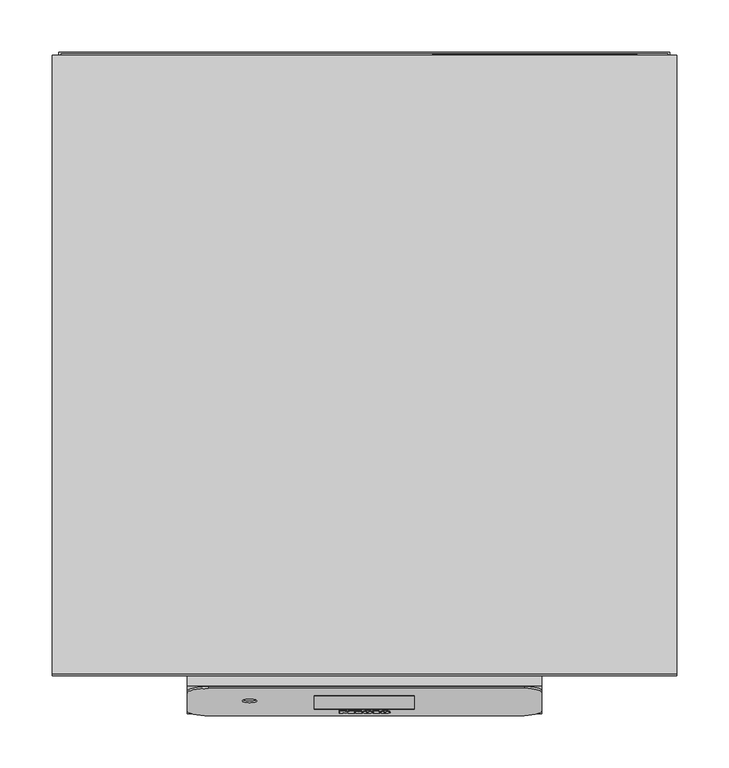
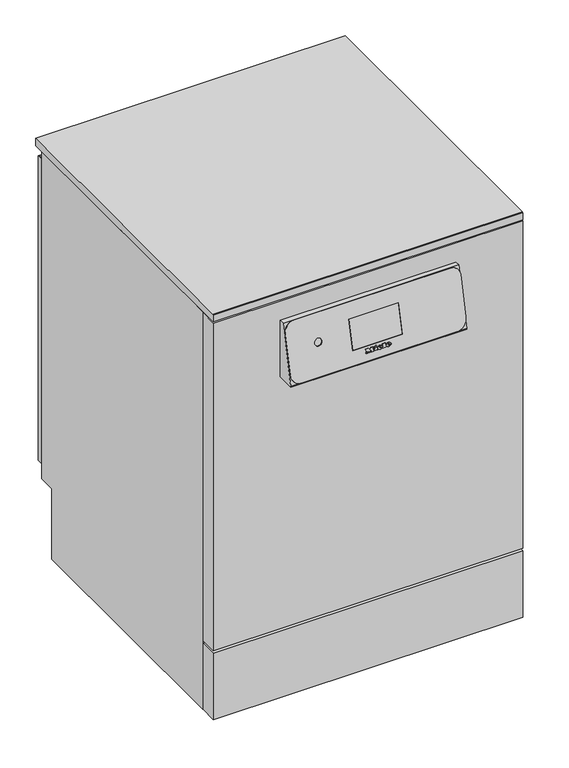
"""IFC4 building model written with IfcOpenShell, lengths in millimetres: proxy geometry, 12065730_NWE_PFD404DOS_SST : 61040487_NWE_12065730_PFD404DOS_SST."""

from ifc_helpers import new_model, si_unit, point, frame, frame_2d, origin, origin_with_axes, place, context, project, spatial, polyline, circle_curve, ellipse_curve, trimmed, segment, composite_curve, outline, extrude, faceted_brep, source, transform, mapped, element, save
from ifc_brep_helpers import plane_surface, cylinder_surface, revolved_surface, extruded_surface, advanced_brep


def specialty_equipment_d3c75e1b(model_context):
    return source(origin(), model_context, "Body", "SolidModel", [
        advanced_brep(
        [(19.2098411, -35.3170778, 679.7116041), (19.2098411, -35.1353173, 680.4988951), (24.5618411, -35.1353173, 680.4988951), (15.2498411, -35.1353173, 680.4988951), (17.4498411, -35.743585, 677.8641985), (24.4258411, -35.3170778, 679.7116041), (22.0098411, -35.3170778, 679.7116041), (20.1058411, -35.5186339, 678.8385685), (19.2098411, -34.9049675, 681.4966501), (19.2098411, -34.7088101, 682.3463008), (20.5778411, -34.7088101, 682.3463008), (20.5778411, -34.9049675, 681.4966501), (19.2098411, -34.3427077, 679.4866531), (20.1058411, -34.5442639, 678.6136175), (22.0098411, -34.3427077, 679.4866531), (24.4258411, -34.3427077, 679.4866531), (17.4498411, -34.7692149, 677.6392474), (15.2498411, -34.1609473, 680.2739441), (24.5618411, -34.1609473, 680.2739441), (19.2098411, -34.1609473, 680.2739441), (19.2098411, -33.9305974, 681.271699), (20.5778411, -33.9305974, 681.271699), (20.5778411, -33.7344401, 682.1213497), (19.2098411, -33.7344401, 682.1213497)],
        [
            (0, 1),
            (1, 2),
            (2, 3, ellipse_curve(frame((19.9058411, -35.1353173, 680.4988951), z_axis=(0.0, -0.9743700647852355, 0.22495105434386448), x_axis=(-1.0, 0.0, 0.0)), 4.656, 3.848)),
            (3, 4, circle_curve(frame((18.3458847, -35.0741307, 680.7639238), z_axis=(0.0, -0.9743700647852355, 0.22495105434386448), x_axis=(0.0, -0.22495105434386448, -0.9743700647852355)), 3.1079688)),
            (4, 5, circle_curve(frame((19.8126347, -34.599034, 682.8217934), z_axis=(0.0, -0.9743700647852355, 0.22495105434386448), x_axis=(0.0, -0.22495105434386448, -0.9743700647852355)), 5.6098607)),
            (5, 6),
            (6, 7, circle_curve(frame((20.4968999, -35.1497142, 680.4365354), z_axis=(0.0, 0.9743700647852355, -0.22495105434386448), x_axis=(0.0, -0.22495105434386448, -0.9743700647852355)), 1.6859795)),
            (7, 0, circle_curve(frame((20.1058411, -35.3170778, 679.7116041), z_axis=(0.0, 0.9743700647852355, -0.22495105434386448), x_axis=(0.0, -0.22495105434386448, -0.9743700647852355)), 0.896)),
            (8, 9),
            (9, 10, circle_curve(frame((19.8938411, -34.7088101, 682.3463008), z_axis=(0.0, 0.9743700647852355, -0.22495105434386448), x_axis=(0.0, -0.22495105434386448, -0.9743700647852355)), 0.684)),
            (10, 11),
            (11, 8),
            (12, 13, circle_curve(frame((20.1058411, -34.3427077, 679.4866531), z_axis=(0.0, -0.9743700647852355, 0.22495105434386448), x_axis=(0.0, -0.22495105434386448, -0.9743700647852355)), 0.896)),
            (13, 14, circle_curve(frame((20.4968999, -34.1753441, 680.2115844), z_axis=(0.0, -0.9743700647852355, 0.22495105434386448), x_axis=(0.0, -0.22495105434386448, -0.9743700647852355)), 1.6859795)),
            (14, 15),
            (15, 16, circle_curve(frame((19.8126347, -33.624664, 682.5968423), z_axis=(0.0, 0.9743700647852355, -0.22495105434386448), x_axis=(0.0, -0.22495105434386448, -0.9743700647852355)), 5.6098607)),
            (16, 17, circle_curve(frame((18.3458847, -34.0997606, 680.5389727), z_axis=(0.0, 0.9743700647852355, -0.22495105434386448), x_axis=(0.0, -0.22495105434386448, -0.9743700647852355)), 3.1079688)),
            (17, 18, ellipse_curve(frame((19.9058411, -34.1609473, 680.2739441), z_axis=(0.0, 0.9743700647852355, -0.22495105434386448), x_axis=(-1.0, 0.0, 0.0)), 4.656, 3.848)),
            (18, 19),
            (19, 12),
            (20, 21),
            (21, 22),
            (22, 23, circle_curve(frame((19.8938411, -33.7344401, 682.1213497), z_axis=(0.0, -0.9743700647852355, 0.22495105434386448), x_axis=(0.0, -0.22495105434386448, -0.9743700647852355)), 0.684)),
            (23, 20),
            (0, 12),
            (19, 1),
            (18, 2),
            (5, 15),
            (14, 6),
            (17, 3),
            (13, 7),
            (16, 4),
            (8, 20),
            (23, 9),
            (22, 10),
            (21, 11),
        ],
        [
            plane_surface(frame((19.2098411, -35.1353173, 680.4988951), z_axis=(0.0, -0.9743700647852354, 0.22495105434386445), x_axis=(0.0, 0.22495105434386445, 0.9743700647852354))),
            plane_surface(frame((19.2098411, -34.1609473, 680.2739441), z_axis=(0.0, 0.9743700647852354, -0.22495105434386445), x_axis=(0.0, -0.22495105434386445, -0.9743700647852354))),
            plane_surface(frame((19.2098411, -35.3170778, 679.7116041), z_axis=(1.0, 0.0, 0.0), x_axis=(0.0, 0.9743700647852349, -0.22495105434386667))),
            plane_surface(frame((19.2098411, -35.1353173, 680.4988951), z_axis=(0.0, -0.22495105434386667, -0.9743700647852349), x_axis=(0.0, 0.9743700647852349, -0.22495105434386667))),
            plane_surface(frame((24.4258411, -35.3170778, 679.7116041), z_axis=(0.0, 0.22495105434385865, 0.9743700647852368), x_axis=(0.0, 0.9743700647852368, -0.22495105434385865))),
            extruded_surface(trimmed(ellipse_curve(frame((19.9058411, -33.1865772, 680.048993), z_axis=(0.0, -0.9743700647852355, 0.22495105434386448), x_axis=(-1.0, 0.0, 0.0)), 4.656, 3.848), [point((24.5618411, -33.1865772, 680.048993))], [point((15.2498411, -33.1865772, 680.048993))], True, "CARTESIAN"), (0.0, -0.9743700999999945, 0.2249510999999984), 1.0000000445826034),
            revolved_surface(polyline([(20.4968999, -34.55460696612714, 678.5688164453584), (20.4968999, -35.52897707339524, 678.7937675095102)]), (20.4968999, -34.1753441, 680.2115844), (0.0, 0.9743700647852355, -0.22495105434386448)),
            revolved_surface(polyline([(20.1058411, -34.544263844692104, 678.6136175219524), (20.1058411, -35.51863393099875, 678.8385685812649)]), (20.1058411, -34.3427077, 679.4866531), (0.0, 0.9743700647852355, -0.22495105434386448)),
            cylinder_surface(frame((18.3458847, -34.0997606, 680.5389727), z_axis=(0.0, -0.9743700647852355, 0.22495105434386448), x_axis=(0.0, -0.22495105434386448, -0.9743700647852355)), 3.1079688),
            cylinder_surface(frame((19.8126347, -33.624664, 682.5968423), z_axis=(0.0, -0.9743700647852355, 0.22495105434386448), x_axis=(0.0, -0.22495105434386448, -0.9743700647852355)), 5.6098607),
            plane_surface(frame((19.2098411, -34.9049675, 681.4966501), z_axis=(1.0, 0.0, 0.0), x_axis=(0.0, 0.9743700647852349, -0.22495105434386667))),
            revolved_surface(polyline([(19.8938411, -33.8883066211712, 681.4548805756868), (19.8938411, -34.8626766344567, 681.6798316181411)]), (19.8938411, -33.7344401, 682.1213497), (0.0, 0.9743700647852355, -0.22495105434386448)),
            plane_surface(frame((20.5778411, -34.7088101, 682.3463008), z_axis=(-1.0, 0.0, 0.0), x_axis=(0.0, 0.9743700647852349, -0.22495105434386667))),
            plane_surface(frame((20.5778411, -34.9049675, 681.4966501), z_axis=(0.0, 0.22495105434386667, 0.9743700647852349), x_axis=(0.0, 0.9743700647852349, -0.22495105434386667))),
        ],
        [
            (0, [[1, 2, 3, 4, 5, 6, 7, 8], [9, 10, 11, 12]]),
            (1, [[13, 14, 15, 16, 17, 18, 19, 20], [21, 22, 23, 24]]),
            (2, [[-1, 25, -20, 26]]),
            (3, [[-2, -26, -19, 27]]),
            (4, [[-6, 28, -15, 29]]),
            (5, [[-3, -27, -18, 30]]),
            (6, [[-7, -29, -14, 31]]),
            (7, [[-8, -31, -13, -25]]),
            (8, [[-4, -30, -17, 32]]),
            (9, [[-5, -32, -16, -28]]),
            (10, [[-9, 33, -24, 34]]),
            (11, [[-10, -34, -23, 35]]),
            (12, [[-11, -35, -22, 36]]),
            (13, [[-12, -36, -21, -33]]),
        ],
    ),
        advanced_brep(
        [(2.5138411, -35.3170778, 679.7116041), (2.5138411, -35.1353173, 680.4988951), (7.8658411, -35.1353173, 680.4988951), (-1.4461589, -35.1353173, 680.4988951), (0.7538411, -35.743585, 677.8641985), (7.7298411, -35.3170778, 679.7116041), (5.3138411, -35.3170778, 679.7116041), (3.4098411, -35.5186339, 678.8385685), (2.5138411, -34.9049675, 681.4966501), (2.5138411, -34.7088101, 682.3463008), (3.8818411, -34.7088101, 682.3463008), (3.8818411, -34.9049675, 681.4966501), (2.5138411, -34.3427077, 679.4866531), (3.4098411, -34.5442639, 678.6136175), (5.3138411, -34.3427077, 679.4866531), (7.7298411, -34.3427077, 679.4866531), (0.7538411, -34.7692149, 677.6392474), (-1.4461589, -34.1609473, 680.2739441), (7.8658411, -34.1609473, 680.2739441), (2.5138411, -34.1609473, 680.2739441), (2.5138411, -33.9305974, 681.271699), (3.8818411, -33.9305974, 681.271699), (3.8818411, -33.7344401, 682.1213497), (2.5138411, -33.7344401, 682.1213497)],
        [
            (0, 1),
            (1, 2),
            (2, 3, ellipse_curve(frame((3.2098411, -35.1353173, 680.4988951), z_axis=(0.0, -0.9743700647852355, 0.22495105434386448), x_axis=(-1.0, 0.0, 0.0)), 4.656, 3.848)),
            (3, 4, circle_curve(frame((1.6498847, -35.0741307, 680.7639238), z_axis=(0.0, -0.9743700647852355, 0.22495105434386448), x_axis=(0.0, -0.22495105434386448, -0.9743700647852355)), 3.1079688)),
            (4, 5, circle_curve(frame((3.1166347, -34.599034, 682.8217934), z_axis=(0.0, -0.9743700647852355, 0.22495105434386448), x_axis=(0.0, -0.22495105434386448, -0.9743700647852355)), 5.6098607)),
            (5, 6),
            (6, 7, circle_curve(frame((3.8008999, -35.1497142, 680.4365354), z_axis=(0.0, 0.9743700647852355, -0.22495105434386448), x_axis=(0.0, -0.22495105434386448, -0.9743700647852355)), 1.6859795)),
            (7, 0, circle_curve(frame((3.4098411, -35.3170778, 679.7116041), z_axis=(0.0, 0.9743700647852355, -0.22495105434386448), x_axis=(0.0, -0.22495105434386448, -0.9743700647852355)), 0.896)),
            (8, 9),
            (9, 10, circle_curve(frame((3.1978411, -34.7088101, 682.3463008), z_axis=(0.0, 0.9743700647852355, -0.22495105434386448), x_axis=(0.0, -0.22495105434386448, -0.9743700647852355)), 0.684)),
            (10, 11),
            (11, 8),
            (12, 13, circle_curve(frame((3.4098411, -34.3427077, 679.4866531), z_axis=(0.0, -0.9743700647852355, 0.22495105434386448), x_axis=(0.0, -0.22495105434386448, -0.9743700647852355)), 0.896)),
            (13, 14, circle_curve(frame((3.8008999, -34.1753441, 680.2115844), z_axis=(0.0, -0.9743700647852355, 0.22495105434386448), x_axis=(0.0, -0.22495105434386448, -0.9743700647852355)), 1.6859795)),
            (14, 15),
            (15, 16, circle_curve(frame((3.1166347, -33.624664, 682.5968423), z_axis=(0.0, 0.9743700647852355, -0.22495105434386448), x_axis=(0.0, -0.22495105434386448, -0.9743700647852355)), 5.6098607)),
            (16, 17, circle_curve(frame((1.6498847, -34.0997606, 680.5389727), z_axis=(0.0, 0.9743700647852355, -0.22495105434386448), x_axis=(0.0, -0.22495105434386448, -0.9743700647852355)), 3.1079688)),
            (17, 18, ellipse_curve(frame((3.2098411, -34.1609473, 680.2739441), z_axis=(0.0, 0.9743700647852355, -0.22495105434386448), x_axis=(-1.0, 0.0, 0.0)), 4.656, 3.848)),
            (18, 19),
            (19, 12),
            (20, 21),
            (21, 22),
            (22, 23, circle_curve(frame((3.1978411, -33.7344401, 682.1213497), z_axis=(0.0, -0.9743700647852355, 0.22495105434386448), x_axis=(0.0, -0.22495105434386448, -0.9743700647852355)), 0.684)),
            (23, 20),
            (0, 12),
            (19, 1),
            (18, 2),
            (5, 15),
            (14, 6),
            (17, 3),
            (13, 7),
            (16, 4),
            (8, 20),
            (23, 9),
            (22, 10),
            (21, 11),
        ],
        [
            plane_surface(frame((2.5138411, -35.1353173, 680.4988951), z_axis=(0.0, -0.9743700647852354, 0.22495105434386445), x_axis=(0.0, 0.22495105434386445, 0.9743700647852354))),
            plane_surface(frame((2.5138411, -34.1609473, 680.2739441), z_axis=(0.0, 0.9743700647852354, -0.22495105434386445), x_axis=(0.0, -0.22495105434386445, -0.9743700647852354))),
            plane_surface(frame((2.5138411, -35.3170778, 679.7116041), z_axis=(1.0000000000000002, 0.0, 0.0), x_axis=(0.0, 0.9743700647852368, -0.22495105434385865))),
            plane_surface(frame((2.5138411, -35.1353173, 680.4988951), z_axis=(0.0, -0.22495105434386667, -0.9743700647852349), x_axis=(0.0, 0.9743700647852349, -0.22495105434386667))),
            plane_surface(frame((7.7298411, -35.3170778, 679.7116041), z_axis=(0.0, 0.22495105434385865, 0.9743700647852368), x_axis=(0.0, 0.9743700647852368, -0.22495105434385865))),
            extruded_surface(trimmed(ellipse_curve(frame((3.2098411, -33.1865772, 680.048993), z_axis=(0.0, -0.9743700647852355, 0.22495105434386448), x_axis=(-1.0, 0.0, 0.0)), 4.656, 3.848), [point((7.8658411, -33.1865772, 680.048993))], [point((-1.4461589, -33.1865772, 680.048993))], True, "CARTESIAN"), (0.0, -0.9743700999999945, 0.2249510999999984), 1.0000000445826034),
            revolved_surface(polyline([(3.8008999, -34.55460696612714, 678.5688164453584), (3.8008999, -35.52897707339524, 678.7937675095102)]), (3.8008999, -34.1753441, 680.2115844), (0.0, 0.9743700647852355, -0.22495105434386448)),
            revolved_surface(polyline([(3.4098411, -34.544263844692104, 678.6136175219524), (3.4098411, -35.51863393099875, 678.8385685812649)]), (3.4098411, -34.3427077, 679.4866531), (0.0, 0.9743700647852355, -0.22495105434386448)),
            cylinder_surface(frame((1.6498847, -34.0997606, 680.5389727), z_axis=(0.0, -0.9743700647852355, 0.22495105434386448), x_axis=(0.0, -0.22495105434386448, -0.9743700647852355)), 3.1079688),
            cylinder_surface(frame((3.1166347, -33.624664, 682.5968423), z_axis=(0.0, -0.9743700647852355, 0.22495105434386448), x_axis=(0.0, -0.22495105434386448, -0.9743700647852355)), 5.6098607),
            plane_surface(frame((2.5138411, -34.9049675, 681.4966501), z_axis=(1.0, 0.0, 0.0), x_axis=(0.0, 0.9743700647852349, -0.22495105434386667))),
            revolved_surface(polyline([(3.1978411, -33.8883066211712, 681.4548805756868), (3.1978411, -34.8626766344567, 681.6798316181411)]), (3.1978411, -33.7344401, 682.1213497), (0.0, 0.9743700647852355, -0.22495105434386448)),
            plane_surface(frame((3.8818411, -34.7088101, 682.3463008), z_axis=(-1.0, 0.0, 0.0), x_axis=(0.0, 0.9743700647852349, -0.22495105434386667))),
            plane_surface(frame((3.8818411, -34.9049675, 681.4966501), z_axis=(0.0, 0.22495105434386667, 0.9743700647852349), x_axis=(0.0, 0.9743700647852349, -0.22495105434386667))),
        ],
        [
            (0, [[1, 2, 3, 4, 5, 6, 7, 8], [9, 10, 11, 12]]),
            (1, [[13, 14, 15, 16, 17, 18, 19, 20], [21, 22, 23, 24]]),
            (2, [[-1, 25, -20, 26]]),
            (3, [[-2, -26, -19, 27]]),
            (4, [[-6, 28, -15, 29]]),
            (5, [[-3, -27, -18, 30]]),
            (6, [[-7, -29, -14, 31]]),
            (7, [[-8, -31, -13, -25]]),
            (8, [[-4, -30, -17, 32]]),
            (9, [[-5, -32, -16, -28]]),
            (10, [[-9, 33, -24, 34]]),
            (11, [[-10, -34, -23, 35]]),
            (12, [[-11, -35, -22, 36]]),
            (13, [[-12, -36, -21, -33]]),
        ],
    ),
        extrude(outline(polyline([(0.0, 0.0), (-0.0109087, -2.9993294), (-1.4390415, -2.9920868), (-1.4315307, 0.0), (0.0, 0.0)])), frame((-6.2301589, -33.0757834, 684.9743053), z_axis=(0.0, -0.9743700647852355, 0.2249510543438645), x_axis=(-0.42472021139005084, 0.20365373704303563, 0.8821212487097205)), (0.0, 0.0, 1.0), 1.0),
        extrude(outline(polyline([(-0.4933908, 2.4141097), (-2.7800844, -2.4601583), (-7.0459742, -0.4588767), (-7.4401146, -1.2990179), (-8.6568709, -0.728194), (-5.9760369, 4.9862153), (-4.7592806, 4.4153913), (-5.1636142, 3.5535222), (-2.1941493, 2.16044), (-1.7898157, 3.022309), (-0.4933908, 2.4141097)])), frame((-6.2301589, -33.0757834, 684.9743053), z_axis=(0.0, -0.9743700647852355, 0.2249510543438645), x_axis=(-0.42472021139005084, 0.20365373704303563, 0.8821212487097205)), (0.0, 0.0, 1.0), 1.0),
        extrude(outline(polyline([(0.0, 0.0), (0.0, -1.3039999), (-5.504, -1.3039999), (-5.504, 5.352), (-6.488, 5.352), (-6.488, 6.696), (0.0, 6.696), (0.0, 5.352), (-0.96, 5.352), (-0.96, 0.0), (0.0, 0.0)])), frame((8.3138411, -33.2629427, 684.1636294), z_axis=(0.0, -0.9743700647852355, 0.22495105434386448), x_axis=(-1.0, 0.0, 0.0)), (0.0, 0.0, 1.0), 1.0),
        extrude(outline(polyline([(0.0, 0.0), (0.0, -1.3039999), (-5.576, -1.3039999), (-7.92, 1.6960001), (-10.256, -1.3039999), (-15.128, -1.3039999), (-15.128, 0.0), (-14.112, 0.0), (-14.112, 5.352), (-15.128, 5.352), (-15.128, 6.696), (-8.744, 6.696), (-8.744, 5.352), (-9.728, 5.352), (-9.728, 1.8807777), (-6.136, 6.696), (-2.56, 1.9488752), (-2.56, 5.352), (-3.52, 5.352), (-3.52, 6.696), (0.0, 6.696), (0.0, 5.352), (-0.968, 5.352), (-0.968, 0.0), (0.0, 0.0)])), frame((-24.1501589, -33.2629427, 684.1636294), z_axis=(0.0, -0.9743700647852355, 0.22495105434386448), x_axis=(-1.0, 0.0, 0.0)), (0.0, 0.0, 1.0), 1.0),
        extrude(outline(polyline([(1.7745866, 832.3), (594.2, 832.3), (594.2, 817.0), (0.2, 817.0), (0.2, 830.7254134), (1.7745866, 832.3)])), frame((-299.0, 0.0, 0.0), z_axis=(1.0, 0.0, 0.0), x_axis=(0.0, 1.0, 0.0)), (0.0, 0.0, 1.0), 598.0),
        extrude(outline(polyline([(-0.1038681, 775.5857792), (-0.1038681, 660.0), (-36.1981904, 660.0), (-36.1981904, 662.5588517), (-10.1038681, 775.5857792), (-0.1038681, 775.5857792)])), frame((-169.8831565, 0.0, 0.0), z_axis=(1.0, 0.0, 0.0), x_axis=(0.0, 1.0, 0.0)), (0.0, 0.0, 1.0), 339.766313),
        extrude(outline(polyline([(299.0, 34.0), (299.0, 0.0), (-299.0, 0.0), (-299.0, 34.0), (299.0, 34.0)])), frame((0.0, 0.0, 4.5), z_axis=(0.0, 0.0, 1.0), x_axis=(1.0, 0.0, 0.0)), (0.0, 0.0, 1.0), 135.5),
        extrude(outline(polyline([(299.0, 34.0), (299.0, 0.0), (-299.0, 0.0), (-299.0, 34.0), (299.0, 34.0)])), frame((0.0, 0.0, 145.0), z_axis=(0.0, 0.0, 1.0), x_axis=(1.0, 0.0, 0.0)), (0.0, 0.0, 1.0), 670.0),
        advanced_brep(
        [(153.3281651, -12.0526082, 776.0356813), (-148.8831565, -12.0526082, 776.0356813), (-169.8831565, -16.7765804, 755.57391), (-169.8831565, -33.4229584, 683.4705252), (-148.8831565, -38.1469305, 663.0087538), (148.8831565, -38.1469305, 663.0087538), (169.8831565, -33.4229584, 683.4705252), (169.8831565, -15.776671, 759.9049933), (-102.8831565, -24.0088923, 724.2473253), (-116.8831565, -24.0088923, 724.2473253), (48.0, -18.9868916, 746.0), (48.0, -31.9155103, 690.0), (-48.0, -31.9155103, 690.0), (-48.0, -18.9868916, 746.0), (153.3281651, -10.1038681, 775.5857792), (169.8831565, -13.8279308, 759.4550912), (169.8831565, -31.4742182, 683.0206231), (148.8831565, -36.1981904, 662.5588517), (-148.8831565, -36.1981904, 662.5588517), (-169.8831565, -31.4742182, 683.0206231), (-169.8831565, -14.8278402, 755.1240079), (-148.8831565, -10.1038681, 775.5857792), (48.0, -29.8629021, 690.0), (48.0, -16.9342834, 746.0), (-48.0, -16.9342834, 746.0), (-48.0, -29.8629021, 690.0), (-116.8831565, -22.4281396, 723.8823798), (-102.8831565, -22.4281396, 723.8823798)],
        [
            (0, 1),
            (1, 2, circle_curve(frame((-148.8831565, -16.7765804, 755.57391), z_axis=(0.0, -0.9743700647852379, 0.22495105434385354), x_axis=(1.0, 0.0, 0.0)), 21.0)),
            (2, 3),
            (3, 4, circle_curve(frame((-148.8831565, -33.4229584, 683.4705252), z_axis=(0.0, -0.9743700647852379, 0.22495105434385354), x_axis=(1.0, 0.0, 0.0)), 21.0)),
            (4, 5),
            (5, 6, circle_curve(frame((148.8831565, -33.4229584, 683.4705252), z_axis=(0.0, -0.9743700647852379, 0.22495105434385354), x_axis=(1.0, 0.0, 0.0)), 21.0)),
            (6, 7),
            (7, 0, circle_curve(frame((153.3281651, -15.776671, 759.9049933), z_axis=(0.0, -0.9743700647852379, 0.22495105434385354), x_axis=(1.0, 0.0, 0.0)), 16.5549913)),
            (8, 9, circle_curve(frame((-109.8831565, -24.0088923, 724.2473253), z_axis=(0.0, 0.9743700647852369, -0.22495105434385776), x_axis=(1.0, 0.0, 0.0)), 7.0)),
            (9, 8, circle_curve(frame((-109.8831565, -24.0088923, 724.2473253), z_axis=(0.0, 0.9743700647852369, -0.22495105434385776), x_axis=(1.0, 0.0, 0.0)), 7.0)),
            (10, 11),
            (11, 12),
            (12, 13),
            (13, 10),
            (14, 15, circle_curve(frame((153.3281651, -13.8279308, 759.4550912), z_axis=(0.0, 0.9743700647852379, -0.22495105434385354), x_axis=(1.0, 0.0, 0.0)), 16.5549913)),
            (15, 16),
            (16, 17, circle_curve(frame((148.8831565, -31.4742182, 683.0206231), z_axis=(0.0, 0.9743700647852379, -0.22495105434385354), x_axis=(1.0, 0.0, 0.0)), 21.0)),
            (17, 18),
            (18, 19, circle_curve(frame((-148.8831565, -31.4742182, 683.0206231), z_axis=(0.0, 0.9743700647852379, -0.22495105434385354), x_axis=(1.0, 0.0, 0.0)), 21.0)),
            (19, 20),
            (20, 21, circle_curve(frame((-148.8831565, -14.8278402, 755.1240079), z_axis=(0.0, 0.9743700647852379, -0.22495105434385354), x_axis=(1.0, 0.0, 0.0)), 21.0)),
            (21, 14),
            (22, 23),
            (23, 24),
            (24, 25),
            (25, 22),
            (0, 14),
            (21, 1),
            (20, 2),
            (19, 3),
            (18, 4),
            (17, 5),
            (16, 6),
            (15, 7),
            (26, 27, circle_curve(frame((-109.8831565, -22.4281396, 723.8823798), z_axis=(0.0, -0.9743700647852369, 0.22495105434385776), x_axis=(1.0, 0.0, 0.0)), 7.0)),
            (27, 26, circle_curve(frame((-109.8831565, -22.4281396, 723.8823798), z_axis=(0.0, -0.9743700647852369, 0.22495105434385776), x_axis=(1.0, 0.0, 0.0)), 7.0)),
            (26, 9),
            (8, 27),
            (12, 25),
            (24, 13),
            (10, 23),
            (22, 11),
        ],
        [
            plane_surface(frame((-166.8819453, -12.0526082, 776.0356813), z_axis=(0.0, -0.9743700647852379, 0.22495105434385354), x_axis=(-1.0, 0.0, 0.0))),
            plane_surface(frame((-166.8819453, -10.1038681, 775.5857792), z_axis=(0.0, 0.9743700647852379, -0.22495105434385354), x_axis=(1.0, 0.0, 0.0))),
            plane_surface(frame((153.3281651, -12.0526082, 776.0356813), z_axis=(0.0, 0.22495105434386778, 0.9743700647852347), x_axis=(0.0, 0.9743700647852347, -0.22495105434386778))),
            cylinder_surface(frame((-148.8831565, -14.8278402, 755.1240079), z_axis=(0.0, -0.9743700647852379, 0.22495105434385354), x_axis=(1.0, 0.0, 0.0)), 21.0),
            plane_surface(frame((-169.8831565, -16.7765804, 755.57391), z_axis=(-1.0, 0.0, 0.0), x_axis=(0.0, 0.9743700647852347, -0.22495105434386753))),
            cylinder_surface(frame((-148.8831565, -31.4742182, 683.0206231), z_axis=(0.0, -0.9743700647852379, 0.22495105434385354), x_axis=(1.0, 0.0, 0.0)), 21.0),
            plane_surface(frame((-148.8831565, -38.1469305, 663.0087538), z_axis=(0.0, -0.22495105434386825, -0.9743700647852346), x_axis=(0.0, 0.9743700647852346, -0.22495105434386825))),
            cylinder_surface(frame((148.8831565, -31.4742182, 683.0206231), z_axis=(0.0, -0.9743700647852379, 0.22495105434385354), x_axis=(1.0, 0.0, 0.0)), 21.0),
            plane_surface(frame((169.8831565, -33.4229584, 683.4705252), z_axis=(1.0000000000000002, 0.0, 0.0), x_axis=(0.0, 0.9743700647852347, -0.22495105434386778))),
            cylinder_surface(frame((153.3281651, -13.8279308, 759.4550912), z_axis=(0.0, -0.9743700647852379, 0.22495105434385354), x_axis=(1.0, 0.0, 0.0)), 16.5549913),
            plane_surface(frame((-102.8831565, -22.4281396, 723.8823798), z_axis=(0.0, -0.9743700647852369, 0.2249510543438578), x_axis=(0.0, -0.2249510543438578, -0.9743700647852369))),
            revolved_surface(polyline([(-102.8831565, -24.008892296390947, 724.2473253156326), (-102.8831565, -22.4281396, 723.8823798)]), (-109.8831565, -22.4281396, 723.8823798), (0.0, -0.9743700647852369, 0.22495105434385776)),
            plane_surface(frame((-48.0, -31.9155103, 690.0), z_axis=(1.0, 0.0, 0.0), x_axis=(0.0, -1.0, 0.0))),
            plane_surface(frame((48.0, -31.9155103, 690.0), z_axis=(-1.0, 0.0, 0.0), x_axis=(0.0, 1.0, 0.0))),
            plane_surface(frame((48.0, -31.9155103, 690.0), z_axis=(0.0, 0.0, 1.0), x_axis=(-1.0, 0.0, 0.0))),
            plane_surface(frame((48.0, -16.9342834, 746.0), z_axis=(0.0, 0.0, -1.0), x_axis=(-1.0, 0.0, 0.0))),
        ],
        [
            (0, [[1, 2, 3, 4, 5, 6, 7, 8], [9, 10], [11, 12, 13, 14]]),
            (1, [[15, 16, 17, 18, 19, 20, 21, 22], [23, 24, 25, 26]]),
            (2, [[-1, 27, -22, 28]]),
            (3, [[-2, -28, -21, 29]]),
            (4, [[-3, -29, -20, 30]]),
            (5, [[-4, -30, -19, 31]]),
            (6, [[-5, -31, -18, 32]]),
            (7, [[-6, -32, -17, 33]]),
            (8, [[-7, -33, -16, 34]]),
            (9, [[-8, -34, -15, -27]]),
            (10, [[35, 36]]),
            (11, [[-35, 37, -9, 38]]),
            (11, [[-36, -38, -10, -37]]),
            (12, [[39, -25, 40, -13]]),
            (13, [[41, -23, 42, -11]]),
            (14, [[-42, -26, -39, -12]]),
            (15, [[-41, -14, -40, -24]]),
        ],
    ),
        extrude(outline(polyline([(-29.8629021, 690.0), (-31.9155103, 690.0), (-18.9868916, 746.0), (-16.9342834, 746.0), (-29.8629021, 690.0)])), frame((-48.0, 0.0, 0.0), z_axis=(1.0, 0.0, 0.0), x_axis=(0.0, 1.0, 0.0)), (0.0, 0.0, 1.0), 96.0),
        extrude(outline(polyline([(35.0, 817.0), (575.0, 817.0), (575.0, 148.0), (541.0, 148.0), (541.0, 4.2000122), (35.0, 4.2000122), (35.0, 817.0)])), frame((-299.0, 0.0, 0.0), z_axis=(1.0, 0.0, 0.0), x_axis=(0.0, 1.0, 0.0)), (0.0, 0.0, 1.0), 598.0),
        extrude(outline(polyline([(-172.0947306, 541.0), (-252.9150967, 541.0), (-252.9150967, 546.8796322), (-172.0947306, 546.8796322), (-172.0947306, 541.0)])), frame((0.0, 0.0, 83.2113443), z_axis=(0.0, 0.0, 1.0), x_axis=(1.0, 0.0, 0.0)), (0.0, 0.0, 1.0), 9.5402229),
        extrude(outline(polyline([(-172.0947306, 541.0), (-252.9150967, 541.0), (-252.9150967, 546.8796322), (-172.0947306, 546.8796322), (-172.0947306, 541.0)])), frame((0.0, 0.0, 49.1113767), z_axis=(0.0, 0.0, 1.0), x_axis=(1.0, 0.0, 0.0)), (0.0, 0.0, 1.0), 11.5700235),
        extrude(outline(polyline([(-172.0947306, 541.0), (-252.9150967, 541.0), (-252.9150967, 546.8796322), (-172.0947306, 546.8796322), (-172.0947306, 541.0)])), frame((0.0, 0.0, 67.2113431), z_axis=(0.0, 0.0, 1.0), x_axis=(1.0, 0.0, 0.0)), (0.0, 0.0, 1.0), 9.5826234),
        faceted_brep([(292.4999939, 597.3069992, 792.0057337), (292.4999939, 575.0, 792.0057337), (292.4999939, 575.0, 170.291519), (292.4999939, 597.3069992, 170.291519), (-292.5000061, 597.3069992, 792.0057337), (-292.5000061, 597.3069992, 170.291519), (-200.000102, 597.3069992, 319.6113699), (-200.000102, 597.3069992, 244.365213), (-125.000102, 597.3069992, 244.365213), (-125.000102, 597.3069992, 319.6113699), (-200.000102, 596.3069992, 244.365213), (-200.000102, 596.3069992, 319.6113699), (-125.000102, 596.3069992, 244.365213), (-125.000102, 596.3069992, 319.6113699), (-292.5000061, 575.0, 792.0057337), (-291.0000061, 575.0, 792.0057337), (-291.0000061, 596.3069992, 792.0057337), (290.9999949, 596.3069992, 792.0057337), (290.9999949, 575.0, 792.0057337), (290.9999949, 575.0, 170.291519), (290.9999949, 596.3069992, 170.291519), (-291.0000061, 596.3069992, 170.291519), (-291.0000061, 575.0, 170.291519), (-292.5000061, 575.0, 170.291519)], [[[0, 1, 2, 3]], [[4, 0, 3, 5], [6, 7, 8, 9]], [[10, 7, 6, 11]], [[7, 10, 12, 8]], [[8, 12, 13, 9]], [[11, 6, 9, 13]], [[0, 4, 14, 15, 16, 17, 18, 1]], [[3, 2, 19, 20, 21, 22, 23, 5]], [[14, 4, 5, 23]], [[15, 14, 23, 22]], [[16, 15, 22, 21]], [[17, 16, 21, 20], [10, 11, 13, 12]], [[18, 17, 20, 19]], [[1, 18, 19, 2]]]),
        extrude(outline(polyline([(48.0999756, 96.1730873), (58.1456066, 98.9125818), (58.1456066, 97.6176372), (51.5433511, 96.028387), (49.5052848, 95.5378777), (51.3079066, 95.0130327), (58.1456066, 93.0215648), (58.1456066, 91.1551768), (53.1890099, 89.7081743), (49.5052848, 88.6315064), (51.4844899, 88.1557123), (58.1456066, 86.5517468), (58.1456066, 85.2568022), (48.0999756, 87.9987493), (48.0999756, 89.3402923), (55.850023, 91.7486931), (56.931596, 92.084692), (55.6292938, 92.4623842), (48.0999756, 94.6574134), (48.0999756, 96.1730873)])), frame((0.0, 571.0, 0.0), z_axis=(0.0, 1.0, 0.0), x_axis=(0.0, 0.0, 1.0)), (0.0, 0.0, 1.0), 1.0),
        extrude(outline(polyline([(48.0999756, 82.2033816), (58.1456066, 84.9428762), (58.1456066, 83.6479316), (51.5433511, 82.0586814), (49.5052848, 81.568172), (51.3079066, 81.0433271), (58.1456066, 79.0518592), (58.1456066, 77.1854712), (53.1890099, 75.7384687), (49.5052848, 74.6618007), (51.4844899, 74.1860067), (58.1456066, 72.5820412), (58.1456066, 71.2870966), (48.0999756, 74.0290437), (48.0999756, 75.3705867), (55.850023, 77.7789875), (56.931596, 78.1149864), (55.6292938, 78.4926786), (48.0999756, 80.6877078), (48.0999756, 82.2033816)])), frame((0.0, 571.0, 0.0), z_axis=(0.0, 1.0, 0.0), x_axis=(0.0, 0.0, 1.0)), (0.0, 0.0, 1.0), 1.0),
        extrude(outline(polyline([(56.599963, 201.5578418), (66.645594, 204.2973364), (66.645594, 203.0023917), (60.0433385, 201.4131415), (58.0052722, 200.9226322), (59.807894, 200.3977872), (66.645594, 198.4063193), (66.645594, 196.5399313), (61.6889973, 195.0929288), (58.0052722, 194.0162609), (59.9844773, 193.5404668), (66.645594, 191.9365013), (66.645594, 190.6415567), (56.599963, 193.3835038), (56.599963, 194.7250468), (64.3500104, 197.1334476), (65.4315834, 197.4694465), (64.1292812, 197.8471387), (56.599963, 200.0421679), (56.599963, 201.5578418)])), frame((0.0, 571.0, 0.0), z_axis=(0.0, 1.0, 0.0), x_axis=(0.0, 0.0, 1.0)), (0.0, 0.0, 1.0), 1.0),
        extrude(outline(polyline([(56.599963, 212.6163745), (66.645594, 212.6163745), (66.645594, 211.3606707), (61.728238, 211.3606707), (66.645594, 206.2103227), (66.645594, 204.4542993), (62.5155055, 208.7781391), (56.599963, 204.2973364), (56.599963, 205.8326305), (61.6669243, 209.6684135), (60.0531487, 211.3606707), (56.599963, 211.3606707), (56.599963, 212.6163745)])), frame((0.0, 571.0, 0.0), z_axis=(0.0, 1.0, 0.0), x_axis=(0.0, 0.0, 1.0)), (0.0, 0.0, 1.0), 1.0),
        extrude(outline(composite_curve([segment(trimmed(circle_curve(frame_2d((61.599963, 202.0998546)), 8.0), [point((61.599963, 194.0998546))], [point((61.599963, 210.0998546))], False, "CARTESIAN"), True, "CONTINUOUS"), segment(trimmed(circle_curve(frame_2d((61.599963, 202.0998546)), 8.0), [point((61.599963, 210.0998546))], [point((61.599963, 194.0998546))], False, "CARTESIAN"), True, "CONTINUOUS")], self_intersect=False)), frame((0.0, 541.0, 0.0), z_axis=(0.0, 1.0, 0.0), x_axis=(0.0, 0.0, 1.0)), (0.0, 0.0, 1.0), 30.0),
        extrude(outline(polyline([(61.1702758, 140.618963), (71.2159068, 140.618963), (71.2159068, 133.3986657), (69.960203, 133.3986657), (69.960203, 139.3632591), (66.9779062, 139.3632591), (66.9779062, 133.7125916), (65.7222024, 133.7125916), (65.7222024, 139.3632591), (62.4259797, 139.3632591), (62.4259797, 133.2417027), (61.1702758, 133.2417027), (61.1702758, 140.618963)])), frame((0.0, 571.0, 0.0), z_axis=(0.0, 1.0, 0.0), x_axis=(0.0, 0.0, 1.0)), (0.0, 0.0, 1.0), 1.0),
        extrude(outline(polyline([(61.1702758, 131.3581469), (71.2159068, 131.3581469), (71.2159068, 130.102443), (62.4259797, 130.102443), (62.4259797, 125.0796275), (61.1702758, 125.0796275), (61.1702758, 131.3581469)])), frame((0.0, 571.0, 0.0), z_axis=(0.0, 1.0, 0.0), x_axis=(0.0, 0.0, 1.0)), (0.0, 0.0, 1.0), 1.0),
        extrude(outline(polyline([(118.1398187, 18.2077062), (128.1854497, 18.2077062), (128.1854497, 14.7422578), (128.0407495, 12.9494462), (127.3221533, 11.4730132), (125.6053707, 10.283528), (123.2165903, 9.888668), (121.1895605, 10.1559956), (119.7266164, 10.8427087), (118.8154953, 11.7599611), (118.311497, 12.9604827), (118.1398187, 14.5754846), (118.1398187, 18.2077062)]), holes=[polyline([(119.3955226, 16.9520023), (119.3955226, 14.7299951), (119.5770111, 13.1137669), (120.0895933, 12.1817991), (121.3367133, 11.4178309), (123.2362106, 11.1443719), (125.6151809, 11.6802533), (126.728637, 12.9837819), (126.9297459, 14.7643307), (126.9297459, 16.9520023), (119.3955226, 16.9520023)])]), frame((0.0, 571.0, 0.0), z_axis=(0.0, 1.0, 0.0), x_axis=(0.0, 0.0, 1.0)), (0.0, 0.0, 1.0), 1.0),
        extrude(outline(polyline([(121.5930044, 8.6329642), (121.5930044, 7.3772603), (120.3360742, 6.9725901), (119.5414491, 5.9842138), (119.2385596, 4.4783502), (119.4678727, 3.1662377), (120.0981772, 2.3188828), (120.940627, 2.0405188), (121.7242156, 2.2489853), (122.2944327, 3.1024715), (122.7739056, 4.930845), (123.3931736, 6.8990137), (124.3275939, 7.9670977), (125.5759401, 8.3190382), (126.9971909, 7.8837112), (128.0002825, 6.6120657), (128.3424127, 4.7505828), (127.9843409, 2.7640201), (126.9321984, 1.4396449), (125.360116, 0.9417779), (125.360116, 2.1974818), (126.6501555, 2.9087203), (127.0867088, 4.7015319), (126.6550606, 6.4992486), (125.6127283, 7.0633343), (124.7420743, 6.6635692), (124.0406459, 4.6132402), (123.4103414, 2.391233), (122.3925346, 1.1759961), (120.9725101, 0.7848149), (119.4703253, 1.2348572), (118.3740369, 2.5298019), (117.9828557, 4.4292992), (118.4046938, 6.6721531), (119.6751129, 8.0909513), (121.5930044, 8.6329642)])), frame((0.0, 571.0, 0.0), z_axis=(0.0, 1.0, 0.0), x_axis=(0.0, 0.0, 1.0)), (0.0, 0.0, 1.0), 1.0),
        extrude(outline(composite_curve([segment(trimmed(circle_curve(frame_2d((126.8499756, 10.1811127)), 2.9851521), [point((126.8499756, 7.1959606))], [point((126.8499756, 13.1662647))], False, "CARTESIAN"), True, "CONTINUOUS"), segment(trimmed(circle_curve(frame_2d((126.8499756, 10.1811127)), 2.9851521), [point((126.8499756, 13.1662647))], [point((126.8499756, 7.1959606))], False, "CARTESIAN"), True, "CONTINUOUS")], self_intersect=False)), frame((0.0, 541.0, 0.0), z_axis=(0.0, 1.0, 0.0), x_axis=(0.0, 0.0, 1.0)), (0.0, 0.0, 1.0), 30.0),
        extrude(outline(composite_curve([segment(trimmed(circle_curve(frame_2d((117.0999756, 10.1811127)), 3.0), [point((117.0999756, 7.1811127))], [point((117.0999756, 13.1811127))], False, "CARTESIAN"), True, "CONTINUOUS"), segment(trimmed(circle_curve(frame_2d((117.0999756, 10.1811127)), 3.0), [point((117.0999756, 13.1811127))], [point((117.0999756, 7.1811127))], False, "CARTESIAN"), True, "CONTINUOUS")], self_intersect=False)), frame((0.0, 541.0, 0.0), z_axis=(0.0, 1.0, 0.0), x_axis=(0.0, 0.0, 1.0)), (0.0, 0.0, 1.0), 30.0),
        extrude(outline(composite_curve([segment(trimmed(circle_curve(frame_2d((107.3499443, 10.1811127)), 3.0), [point((107.3499443, 7.1811127))], [point((107.3499443, 13.1811127))], False, "CARTESIAN"), True, "CONTINUOUS"), segment(trimmed(circle_curve(frame_2d((107.3499443, 10.1811127)), 3.0), [point((107.3499443, 13.1811127))], [point((107.3499443, 7.1811127))], False, "CARTESIAN"), True, "CONTINUOUS")], self_intersect=False)), frame((0.0, 541.0, 0.0), z_axis=(0.0, 1.0, 0.0), x_axis=(0.0, 0.0, 1.0)), (0.0, 0.0, 1.0), 30.0),
        extrude(outline(composite_curve([segment(trimmed(circle_curve(frame_2d((136.5999756, 10.1811127)), 3.0), [point((136.5999756, 7.1811127))], [point((136.5999756, 13.1811127))], False, "CARTESIAN"), True, "CONTINUOUS"), segment(trimmed(circle_curve(frame_2d((136.5999756, 10.1811127)), 3.0), [point((136.5999756, 13.1811127))], [point((136.5999756, 7.1811127))], False, "CARTESIAN"), True, "CONTINUOUS")], self_intersect=False)), frame((0.0, 541.0, 0.0), z_axis=(0.0, 1.0, 0.0), x_axis=(0.0, 0.0, 1.0)), (0.0, 0.0, 1.0), 30.0),
        extrude(outline(polyline([(99.6239875, 19.6811122), (148.0, 19.6811122), (148.0, 1.1811127), (99.6239875, 1.1811127), (99.6239875, 19.6811122)]), holes=[polyline([(100.6239875, 18.6811122), (100.6239875, 2.1811127), (147.0, 2.1811127), (147.0, 18.6811122), (100.6239875, 18.6811122)])]), frame((0.0, 541.0, 0.0), z_axis=(0.0, 1.0, 0.0), x_axis=(0.0, 0.0, 1.0)), (0.0, 0.0, 1.0), 1.0),
        extrude(outline(polyline([(118.1398187, -7.1235653), (128.1854497, -7.1235653), (128.1854497, -10.5890137), (128.0407495, -12.3818253), (127.3221533, -13.8582584), (125.6053707, -15.0477435), (123.2165903, -15.4426035), (121.1895605, -15.1752759), (119.7266164, -14.4885629), (118.8154953, -13.5713104), (118.311497, -12.3707889), (118.1398187, -10.7557869), (118.1398187, -7.1235653)]), holes=[polyline([(119.3955226, -8.3792692), (119.3955226, -10.6012765), (119.5770111, -12.2175047), (120.0895933, -13.1494724), (121.3367133, -13.9134407), (123.2362106, -14.1868996), (125.6151809, -13.6510182), (126.728637, -12.3474897), (126.9297459, -10.5669408), (126.9297459, -8.3792692), (119.3955226, -8.3792692)])]), frame((0.0, 571.0, 0.0), z_axis=(0.0, 1.0, 0.0), x_axis=(0.0, 0.0, 1.0)), (0.0, 0.0, 1.0), 1.0),
        extrude(outline(polyline([(121.5930044, -16.6983074), (121.5930044, -17.9540113), (120.3360742, -18.3586815), (119.5414491, -19.3470578), (119.2385596, -20.8529214), (119.4678727, -22.1650338), (120.0981772, -23.0123887), (120.940627, -23.2907528), (121.7242156, -23.0822863), (122.2944327, -22.2288001), (122.7739056, -20.4004265), (123.3931736, -18.4322579), (124.3275939, -17.3641738), (125.5759401, -17.0122334), (126.9971909, -17.4475604), (128.0002825, -18.7192058), (128.3424127, -20.5806887), (127.9843409, -22.5672515), (126.9321984, -23.8916267), (125.360116, -24.3894936), (125.360116, -23.1337898), (126.6501555, -22.4225512), (127.0867088, -20.6297397), (126.6550606, -18.832023), (125.6127283, -18.2679372), (124.7420743, -18.6677023), (124.0406459, -20.7180313), (123.4103414, -22.9400386), (122.3925346, -24.1552754), (120.9725101, -24.5464566), (119.4703253, -24.0964143), (118.3740369, -22.8014697), (117.9828557, -20.9019723), (118.4046938, -18.6591184), (119.6751129, -17.2403202), (121.5930044, -16.6983074)])), frame((0.0, 571.0, 0.0), z_axis=(0.0, 1.0, 0.0), x_axis=(0.0, 0.0, 1.0)), (0.0, 0.0, 1.0), 1.0),
        extrude(outline(composite_curve([segment(trimmed(circle_curve(frame_2d((126.8499756, -15.1501589)), 2.9851521), [point((126.8499756, -18.135311))], [point((126.8499756, -12.1650068))], False, "CARTESIAN"), True, "CONTINUOUS"), segment(trimmed(circle_curve(frame_2d((126.8499756, -15.1501589)), 2.9851521), [point((126.8499756, -12.1650068))], [point((126.8499756, -18.135311))], False, "CARTESIAN"), True, "CONTINUOUS")], self_intersect=False)), frame((0.0, 541.0, 0.0), z_axis=(0.0, 1.0, 0.0), x_axis=(0.0, 0.0, 1.0)), (0.0, 0.0, 1.0), 30.0),
        extrude(outline(composite_curve([segment(trimmed(circle_curve(frame_2d((117.0999756, -15.1501589)), 3.0), [point((117.0999756, -18.1501589))], [point((117.0999756, -12.1501589))], False, "CARTESIAN"), True, "CONTINUOUS"), segment(trimmed(circle_curve(frame_2d((117.0999756, -15.1501589)), 3.0), [point((117.0999756, -12.1501589))], [point((117.0999756, -18.1501589))], False, "CARTESIAN"), True, "CONTINUOUS")], self_intersect=False)), frame((0.0, 541.0, 0.0), z_axis=(0.0, 1.0, 0.0), x_axis=(0.0, 0.0, 1.0)), (0.0, 0.0, 1.0), 30.0),
        extrude(outline(composite_curve([segment(trimmed(circle_curve(frame_2d((107.3499443, -15.1501589)), 3.0), [point((107.3499443, -18.1501589))], [point((107.3499443, -12.1501589))], False, "CARTESIAN"), True, "CONTINUOUS"), segment(trimmed(circle_curve(frame_2d((107.3499443, -15.1501589)), 3.0), [point((107.3499443, -12.1501589))], [point((107.3499443, -18.1501589))], False, "CARTESIAN"), True, "CONTINUOUS")], self_intersect=False)), frame((0.0, 541.0, 0.0), z_axis=(0.0, 1.0, 0.0), x_axis=(0.0, 0.0, 1.0)), (0.0, 0.0, 1.0), 30.0),
        extrude(outline(composite_curve([segment(trimmed(circle_curve(frame_2d((136.5999756, -15.1501589)), 3.0), [point((136.5999756, -18.1501589))], [point((136.5999756, -12.1501589))], False, "CARTESIAN"), True, "CONTINUOUS"), segment(trimmed(circle_curve(frame_2d((136.5999756, -15.1501589)), 3.0), [point((136.5999756, -12.1501589))], [point((136.5999756, -18.1501589))], False, "CARTESIAN"), True, "CONTINUOUS")], self_intersect=False)), frame((0.0, 541.0, 0.0), z_axis=(0.0, 1.0, 0.0), x_axis=(0.0, 0.0, 1.0)), (0.0, 0.0, 1.0), 30.0),
        extrude(outline(polyline([(99.6239875, -5.6501594), (148.0, -5.6501594), (148.0, -24.1501589), (99.6239875, -24.1501589), (99.6239875, -5.6501594)]), holes=[polyline([(100.6239875, -6.6501594), (100.6239875, -23.1501589), (147.0, -23.1501589), (147.0, -6.6501594), (100.6239875, -6.6501594)])]), frame((0.0, 541.0, 0.0), z_axis=(0.0, 1.0, 0.0), x_axis=(0.0, 0.0, 1.0)), (0.0, 0.0, 1.0), 1.0),
        extrude(outline(polyline([(294.0108337, -153.1353281), (304.0564648, -153.1353281), (304.0564648, -156.6007765), (303.9117645, -158.3935881), (303.1931683, -159.8700212), (301.4763857, -161.0595063), (299.0876053, -161.4543663), (297.0605755, -161.1870387), (295.5976314, -160.5003256), (294.6865103, -159.5830732), (294.182512, -158.3825516), (294.0108337, -156.7675497), (294.0108337, -153.1353281)]), holes=[polyline([(295.2665376, -154.391032), (295.2665376, -156.6130392), (295.4480261, -158.2292675), (295.9606083, -159.1612352), (297.2077283, -159.9252035), (299.1072256, -160.1986624), (301.4861959, -159.662781), (302.5996521, -158.3592524), (302.8007609, -156.5787036), (302.8007609, -154.391032), (295.2665376, -154.391032)])]), frame((0.0, 585.0, 0.0), z_axis=(0.0, 1.0, 0.0), x_axis=(0.0, 0.0, 1.0)), (0.0, 0.0, 1.0), 1.0),
        extrude(outline(polyline([(297.4640194, -162.7100702), (297.4640194, -163.965774), (296.2070893, -164.3704442), (295.4124641, -165.3588205), (295.1095746, -166.8646842), (295.3388877, -168.1767966), (295.9691922, -169.0241515), (296.811642, -169.3025155), (297.5952306, -169.094049), (298.1654477, -168.2405628), (298.6449206, -166.4121893), (299.2641886, -164.4440206), (300.1986089, -163.3759366), (301.4469551, -163.0239961), (302.8682059, -163.4593232), (303.8712975, -164.7309686), (304.2134277, -166.5924515), (303.8553559, -168.5790143), (302.8032134, -169.9033894), (301.231131, -170.4012564), (301.231131, -169.1455525), (302.5211706, -168.434314), (302.9577239, -166.6415024), (302.5260757, -164.8437857), (301.4837433, -164.2797), (300.6130893, -164.6794651), (299.9116609, -166.7297941), (299.2813565, -168.9518013), (298.2635496, -170.1670382), (296.8435251, -170.5582194), (295.3413403, -170.1081771), (294.2450519, -168.8132325), (293.8538708, -166.9137351), (294.2757088, -164.6708812), (295.5461279, -163.252083), (297.4640194, -162.7100702)])), frame((0.0, 585.0, 0.0), z_axis=(0.0, 1.0, 0.0), x_axis=(0.0, 0.0, 1.0)), (0.0, 0.0, 1.0), 1.0),
        extrude(outline(composite_curve([segment(trimmed(circle_curve(frame_2d((299.0108337, -161.6898108)), 35.0), [point((299.0108337, -196.6898108))], [point((299.0108337, -126.6898108))], False, "CARTESIAN"), True, "CONTINUOUS"), segment(trimmed(circle_curve(frame_2d((299.0108337, -161.6898108)), 35.0), [point((299.0108337, -126.6898108))], [point((299.0108337, -196.6898108))], False, "CARTESIAN"), True, "CONTINUOUS")], self_intersect=False)), frame((0.0, 575.0, 0.0), z_axis=(0.0, 1.0, 0.0), x_axis=(0.0, 0.0, 1.0)), (0.0, 0.0, 1.0), 10.0),
        extrude(outline(polyline([(134.5999756, -252.738078), (144.6456066, -252.738078), (144.6456066, -256.4610438), (144.5499573, -257.9620023), (144.0802946, -259.1821442), (143.1090861, -259.9730905), (141.7393388, -260.2723012), (139.5688351, -259.4641871), (138.6810132, -256.5468829), (138.6810132, -253.9937818), (134.5999756, -253.9937818), (134.5999756, -252.738078)]), holes=[polyline([(139.9367171, -253.9937818), (139.9367171, -256.6204593), (140.3977958, -258.4696795), (141.695193, -259.0165974), (142.7350728, -258.6940875), (143.3040636, -257.8467326), (143.3899027, -256.5910287), (143.3899027, -253.9937818), (139.9367171, -253.9937818)])]), frame((0.0, 571.0, 0.0), z_axis=(0.0, 1.0, 0.0), x_axis=(0.0, 0.0, 1.0)), (0.0, 0.0, 1.0), 1.0),
        extrude(outline(polyline([(134.5999756, -260.8290293), (144.6456066, -264.8389431), (144.6456066, -265.9082534), (134.5999756, -269.9181671), (134.5999756, -268.5913394), (137.7392353, -267.441095), (137.7392353, -263.3036489), (134.5999756, -262.155857), (134.5999756, -260.8290293)]), holes=[polyline([(138.9949392, -263.7647276), (138.9949392, -266.9824688), (141.4646536, -266.0774791), (143.3899027, -265.3735982), (141.6804777, -264.7481988), (138.9949392, -263.7647276)])]), frame((0.0, 571.0, 0.0), z_axis=(0.0, 1.0, 0.0), x_axis=(0.0, 0.0, 1.0)), (0.0, 0.0, 1.0), 1.0),
        extrude(outline(composite_curve([segment(trimmed(circle_curve(frame_2d((139.5999756, -260.9001532)), 8.0), [point((139.5999756, -268.9001532))], [point((139.5999756, -252.9001532))], False, "CARTESIAN"), True, "CONTINUOUS"), segment(trimmed(circle_curve(frame_2d((139.5999756, -260.9001532)), 8.0), [point((139.5999756, -252.9001532))], [point((139.5999756, -268.9001532))], False, "CARTESIAN"), True, "CONTINUOUS")], self_intersect=False)), frame((0.0, 541.0, 0.0), z_axis=(0.0, 1.0, 0.0), x_axis=(0.0, 0.0, 1.0)), (0.0, 0.0, 1.0), 30.0),
        extrude(outline(composite_curve([segment(trimmed(circle_curve(frame_2d((51.0, 85.0998392)), 8.0), [point((51.0, 77.0998392))], [point((51.0, 93.0998392))], False, "CARTESIAN"), True, "CONTINUOUS"), segment(trimmed(circle_curve(frame_2d((51.0, 85.0998392)), 8.0), [point((51.0, 93.0998392))], [point((51.0, 77.0998392))], False, "CARTESIAN"), True, "CONTINUOUS")], self_intersect=False)), frame((0.0, 541.0, 0.0), z_axis=(0.0, 1.0, 0.0), x_axis=(0.0, 0.0, 1.0)), (0.0, 0.0, 1.0), 30.0),
        extrude(outline(composite_curve([segment(trimmed(circle_curve(frame_2d((66.0, 134.0)), 8.0), [point((66.0, 126.0))], [point((66.0, 142.0))], False, "CARTESIAN"), True, "CONTINUOUS"), segment(trimmed(circle_curve(frame_2d((66.0, 134.0)), 8.0), [point((66.0, 142.0))], [point((66.0, 126.0))], False, "CARTESIAN"), True, "CONTINUOUS")], self_intersect=False)), frame((0.0, 541.0, 0.0), z_axis=(0.0, 1.0, 0.0), x_axis=(0.0, 0.0, 1.0)), (0.0, 0.0, 1.0), 30.0),
        extrude(outline(polyline([(-246.8707486, 541.0), (-246.8707486, 505.0), (-294.0966381, 505.0), (-294.0966381, 541.0), (-246.8707486, 541.0)])), origin_with_axes(), (0.0, 0.0, 1.0), 4.2000122),
        extrude(outline(polyline([(246.8707486, 541.0), (294.0966381, 541.0), (294.0966381, 505.0), (246.8707486, 505.0), (246.8707486, 541.0)])), origin_with_axes(), (0.0, 0.0, 1.0), 4.2000122),
        extrude(outline(composite_curve([segment(trimmed(circle_curve(frame_2d((-269.0, 35.0)), 16.477447), [point((-285.477447, 35.0))], [point((-252.522553, 35.0))], False, "CARTESIAN"), True, "CONTINUOUS"), segment(trimmed(circle_curve(frame_2d((-269.0, 35.0)), 16.477447), [point((-252.522553, 35.0))], [point((-285.477447, 35.0))], False, "CARTESIAN"), True, "CONTINUOUS")], self_intersect=False)), origin_with_axes(), (0.0, 0.0, 1.0), 4.2000122),
        extrude(outline(composite_curve([segment(trimmed(circle_curve(frame_2d((269.0, 35.0)), 16.477447), [point((252.522553, 35.0))], [point((285.477447, 35.0))], False, "CARTESIAN"), True, "CONTINUOUS"), segment(trimmed(circle_curve(frame_2d((269.0, 35.0)), 16.477447), [point((285.477447, 35.0))], [point((252.522553, 35.0))], False, "CARTESIAN"), True, "CONTINUOUS")], self_intersect=False)), origin_with_axes(), (0.0, 0.0, 1.0), 4.2000122),
        extrude(outline(polyline([(43.7403323, 550.3224589), (41.0008378, 560.3680899), (42.2957824, 560.3680899), (43.8850326, 553.7658343), (44.3755419, 551.7277681), (44.9003869, 553.5303898), (46.8918548, 560.3680899), (48.7582428, 560.3680899), (50.2052453, 555.4114931), (51.2819133, 551.7277681), (51.7577073, 553.7069732), (53.3616728, 560.3680899), (54.6566174, 560.3680899), (51.9146703, 550.3224589), (50.5731273, 550.3224589), (48.1647265, 558.0725062), (47.8287276, 559.1540793), (47.4510354, 557.851777), (45.2560062, 550.3224589), (43.7403323, 550.3224589)])), frame((0.0, 0.0, 94.3852284), z_axis=(0.0, 0.0, 1.0), x_axis=(1.0, 0.0, 0.0)), (0.0, 0.0, 1.0), 1.0),
        extrude(outline(polyline([(54.7424566, 550.3224589), (58.7523703, 560.3680899), (59.8216806, 560.3680899), (63.8315944, 550.3224589), (62.5047667, 550.3224589), (61.3545223, 553.4617185), (57.2170761, 553.4617185), (56.0692843, 550.3224589), (54.7424566, 550.3224589)]), holes=[polyline([(57.6781549, 554.7174224), (60.8958961, 554.7174224), (59.9909064, 557.1871369), (59.2870255, 559.112386), (58.6616261, 557.402961), (57.6781549, 554.7174224)])]), frame((0.0, 0.0, 94.3852284), z_axis=(0.0, 0.0, 1.0), x_axis=(1.0, 0.0, 0.0)), (0.0, 0.0, 1.0), 1.0),
        advanced_brep(
        [(52.1828095, 541.0, 118.3852589), (52.1828095, 541.0, 134.3852589), (52.1828095, 547.3224589, 118.3852589), (52.1828095, 563.3224589, 134.3852589), (52.1828095, 547.3224589, 95.3852284), (52.1828095, 563.3224589, 95.3852284)],
        [
            (0, 1, circle_curve(frame((52.1828095, 541.0, 126.3852589), z_axis=(0.0, -1.0, 0.0), x_axis=(0.0, 0.0, 1.0)), 8.0)),
            (1, 0, circle_curve(frame((52.1828095, 541.0, 126.3852589), z_axis=(0.0, -1.0, 0.0), x_axis=(0.0, 0.0, 1.0)), 8.0)),
            (0, 2),
            (2, 3, ellipse_curve(frame((52.1828095, 555.3224589, 126.3852589), z_axis=(0.0, -0.7071067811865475, 0.7071067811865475), x_axis=(0.0, -0.7071067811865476, -0.7071067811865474)), 11.3137085, 8.0)),
            (3, 1),
            (3, 2, ellipse_curve(frame((52.1828095, 555.3224589, 126.3852589), z_axis=(0.0, -0.7071067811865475, 0.7071067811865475), x_axis=(0.0, -0.7071067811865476, -0.7071067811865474)), 11.3137085, 8.0)),
            (4, 5, circle_curve(frame((52.1828095, 555.3224589, 95.3852284), z_axis=(0.0, 0.0, -1.0), x_axis=(0.0, 1.0, 0.0)), 8.0)),
            (5, 4, circle_curve(frame((52.1828095, 555.3224589, 95.3852284), z_axis=(0.0, 0.0, -1.0), x_axis=(0.0, 1.0, 0.0)), 8.0)),
            (2, 4),
            (5, 3),
        ],
        [
            plane_surface(frame((0.0, 541.0, 126.3852589), z_axis=(0.0, -1.0, 0.0), x_axis=(1.0, 0.0, 0.0))),
            cylinder_surface(frame((52.1828095, 541.0, 126.3852589), z_axis=(0.0, -1.0, 0.0), x_axis=(0.0, 0.0, 1.0)), 8.0),
            plane_surface(frame((0.0, 555.3224589, 95.3852284), z_axis=(0.0, 0.0, -1.0), x_axis=(1.0, 0.0, 0.0))),
            cylinder_surface(frame((52.1828095, 555.3224589, 126.3852589), z_axis=(0.0, 0.0, 1.0), x_axis=(0.0, 1.0, 0.0)), 8.0),
        ],
        [
            (0, [[1, 2]]),
            (1, [[-1, 3, 4, 5]]),
            (1, [[-2, -5, 6, -3]]),
            (2, [[7, 8]]),
            (3, [[-4, 9, -8, 10]]),
            (3, [[-6, -10, -7, -9]]),
        ],
    ),
        extrude(outline(polyline([(138.0, 261.5580222), (148.0, 261.5580222), (148.0, 65.0), (85.2499443, 65.0), (85.2499443, 225.8557987), (138.0, 225.8557987), (138.0, 261.5580222)])), frame((0.0, 541.0, 0.0), z_axis=(0.0, 1.0, 0.0), x_axis=(0.0, 0.0, 1.0)), (0.0, 0.0, 1.0), 54.1251226),
    ])


if __name__ == "__main__":
    model = new_model("IFC4")
    model_context = context("Model", 3, world=origin())
    ifc_project = project(units=[si_unit("LENGTHUNIT", "METRE", prefix="MILLI")], contexts=[model_context])
    site = spatial("IfcSite", under=ifc_project)
    building = spatial("IfcBuilding", under=site)
    placement = place(None, origin())
    specialty_equipment_shape = specialty_equipment_d3c75e1b(model_context)
    element("IfcBuildingElementProxy", 1, Name="12065730_NWE_PFD404DOS_SST : 61040487_NWE_12065730_PFD404DOS_SST", ObjectType="12065730_NWE_PFD404DOS_SST : 61040487_NWE_12065730_PFD404DOS_SST", at=placement, inside=building, context=model_context, shape_type="MappedRepresentation", body=[
        mapped(specialty_equipment_shape, transform((0.0, 0.0, 0.0), x_axis=(1.0, 0.0, 0.0), y_axis=(0.0, 1.0, 0.0), z_axis=(0.0, 0.0, 1.0))),
    ])
    save(model, "model.ifc")
